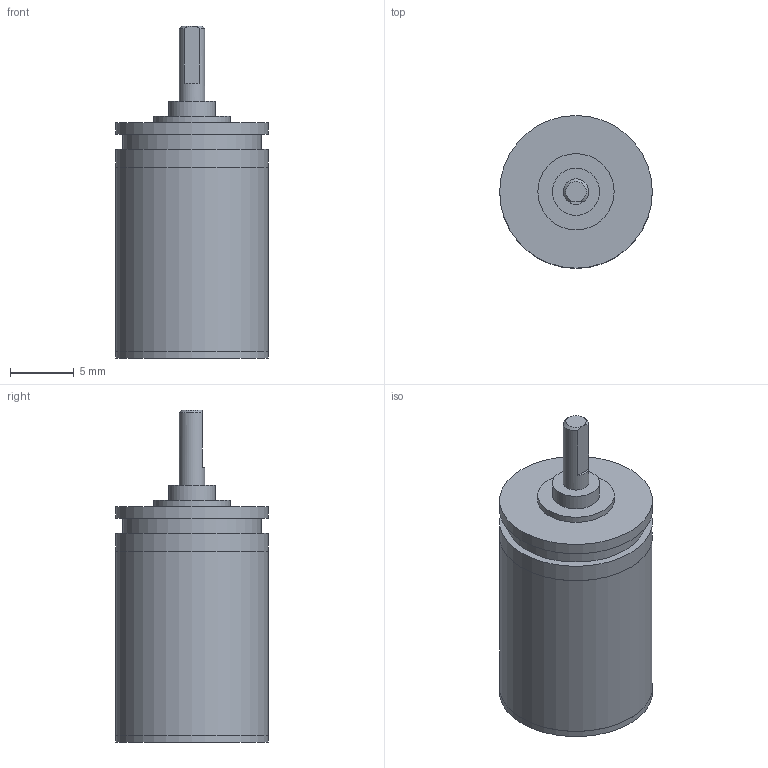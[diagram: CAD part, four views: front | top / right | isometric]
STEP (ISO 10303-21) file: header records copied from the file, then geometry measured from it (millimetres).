
FILE_DESCRIPTION(/* description */ (''),/* implementation_level */ '2;1');
FILE_NAME(/* name */ '12-3K_4.stp',/* time_stamp */ '2016-08-24T10:19:33+02:00',/* author */ ('DR. FRITZ FAULHABER GmbH & Co. KG'),/* organization */ ('DR. FRITZ FAULHABER GmbH & Co. KG'),/* preprocessor_version */ 'ST-DEVELOPER v16',/* originating_system */ 'SIEMENS PLM Software NX 10.0',/* authorisation */ '');
FILE_SCHEMA (('AUTOMOTIVE_DESIGN { 1 0 10303 214 3 1 1 1 }'));
Length unit declared in the file: millimetre
Products named in the file (1): H00000580_A
Bounding box: 12 x 12 x 26.1 mm (x, y, z)
Volume: 2041.7 mm3; surface area: 1085.8 mm2
Topology: 1 solids, 1 shells, 32 faces, 52 edges, 34 vertices
Faces by surface type: plane 16, cylinder 14, cone 2
Full cylindrical faces by diameter (mm): 2 x1, 2.48 x1, 2.6 x1, 3.7 x1, 5 x1, 6 x2, 10.88 x1, 11.99 x2, 12 x4
Entity records: 692 total; most frequent: DIRECTION 129, CARTESIAN_POINT 115, ORIENTED_EDGE 70, AXIS2_PLACEMENT_3D 63, EDGE_LOOP 59, FACE_BOUND 54, EDGE_CURVE 35, ADVANCED_FACE 32
